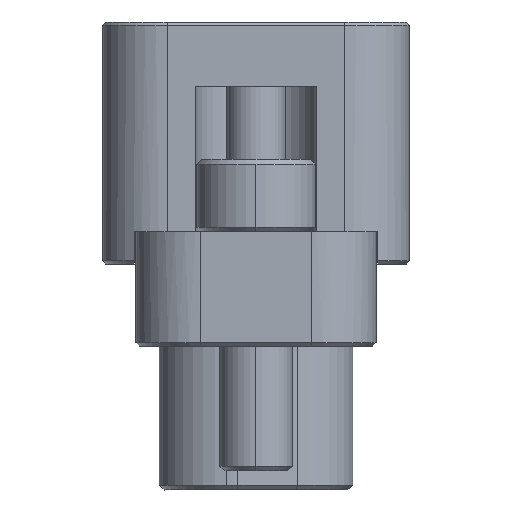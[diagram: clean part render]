
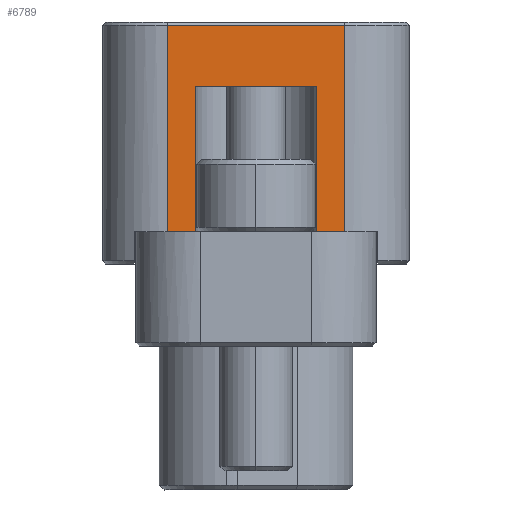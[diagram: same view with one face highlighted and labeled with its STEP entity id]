
A CAD part, left-side view. The second image highlights one B-rep face of the part: STEP entity #6789.
In plain terms, the highlighted planar face has unit normal (-1, 0, 0).
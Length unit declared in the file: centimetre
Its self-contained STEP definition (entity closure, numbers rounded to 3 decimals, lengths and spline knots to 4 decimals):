
#100 = LINE ( 'NONE', #6890, #103 ) ;
#103 = VECTOR ( 'NONE', #6884, 100. ) ;
#104 = LINE ( 'NONE', #6888, #109 ) ;
#106 = LINE ( 'NONE', #6889, #107 ) ;
#107 = VECTOR ( 'NONE', #6894, 100. ) ;
#109 = VECTOR ( 'NONE', #6895, 100. ) ;
#323 = EDGE_CURVE ( 'NONE', #5536, #5441, #100, .T. ) ;
#324 = EDGE_CURVE ( 'NONE', #5535, #5597, #106, .T. ) ;
#325 = EDGE_CURVE ( 'NONE', #5536, #5535, #104, .T. ) ;
#785 = CARTESIAN_POINT ( 'NONE',  ( -1.6065, 0.2388, 1.0211 ) ) ;
#796 = CARTESIAN_POINT ( 'NONE',  ( -1.6065, 0.3493, 0.4496 ) ) ;
#819 = CARTESIAN_POINT ( 'NONE',  ( -1.6065, 0.2388, 0.4496 ) ) ;
#867 = CARTESIAN_POINT ( 'NONE',  ( -1.6065, -0.3493, 1.2624 ) ) ;
#873 = CARTESIAN_POINT ( 'NONE',  ( -1.6065, 0.3492, 1.2624 ) ) ;
#888 = CARTESIAN_POINT ( 'NONE',  ( -1.6065, -0.2388, 1.0211 ) ) ;
#916 = CARTESIAN_POINT ( 'NONE',  ( -1.6065, -0.3493, 0.4496 ) ) ;
#937 = CARTESIAN_POINT ( 'NONE',  ( -1.6065, -0.2388, 0.4496 ) ) ;
#1309 = CARTESIAN_POINT ( 'NONE',  ( -1.6065, 0., 1.0211 ) ) ;
#1310 = CARTESIAN_POINT ( 'NONE',  ( -1.6065, 0.2388, 1.2751 ) ) ;
#1314 = DIRECTION ( 'NONE',  ( 0., 0., 1. ) ) ;
#1317 = DIRECTION ( 'NONE',  ( 0., -1., 0. ) ) ;
#1349 = LINE ( 'NONE', #1310, #1355 ) ;
#1352 = LINE ( 'NONE', #1309, #1359 ) ;
#1355 = VECTOR ( 'NONE', #1314, 100. ) ;
#1358 = LINE ( 'NONE', #1607, #1361 ) ;
#1359 = VECTOR ( 'NONE', #1317, 100. ) ;
#1361 = VECTOR ( 'NONE', #1608, 100. ) ;
#1495 = FACE_OUTER_BOUND ( 'NONE', #6197, .T. ) ;
#1607 = CARTESIAN_POINT ( 'NONE',  ( -1.6065, -0.2388, 1.2751 ) ) ;
#1608 = DIRECTION ( 'NONE',  ( 0., 0., -1. ) ) ;
#2045 = CARTESIAN_POINT ( 'NONE',  ( -1.6065, 0., 1.2751 ) ) ;
#2046 = PLANE ( 'NONE',  #2185 ) ;
#2063 = DIRECTION ( 'NONE',  ( -1., 0., 0. ) ) ;
#2064 = DIRECTION ( 'NONE',  ( 0., 0., 1. ) ) ;
#2185 = AXIS2_PLACEMENT_3D ( 'NONE', #2045, #2063, #2064 ) ;
#3705 = CARTESIAN_POINT ( 'NONE',  ( -1.6065, 0., 0.4496 ) ) ;
#3706 = DIRECTION ( 'NONE',  ( 0., -1., 0. ) ) ;
#3741 = DIRECTION ( 'NONE',  ( 0., -1., 0. ) ) ;
#3745 = CARTESIAN_POINT ( 'NONE',  ( -1.6065, 0., 0.4496 ) ) ;
#3899 = LINE ( 'NONE', #3705, #3902 ) ;
#3902 = VECTOR ( 'NONE', #3706, 100. ) ;
#3928 = LINE ( 'NONE', #3745, #3930 ) ;
#3930 = VECTOR ( 'NONE', #3741, 100. ) ;
#5435 = VERTEX_POINT ( 'NONE', #785 ) ;
#5441 = VERTEX_POINT ( 'NONE', #796 ) ;
#5469 = ORIENTED_EDGE ( 'NONE', *, *, #7133, .T. ) ;
#5473 = VERTEX_POINT ( 'NONE', #819 ) ;
#5501 = ORIENTED_EDGE ( 'NONE', *, *, #324, .F. ) ;
#5531 = ORIENTED_EDGE ( 'NONE', *, *, #5799, .T. ) ;
#5535 = VERTEX_POINT ( 'NONE', #867 ) ;
#5536 = VERTEX_POINT ( 'NONE', #873 ) ;
#5557 = VERTEX_POINT ( 'NONE', #888 ) ;
#5562 = ORIENTED_EDGE ( 'NONE', *, *, #5802, .T. ) ;
#5593 = ORIENTED_EDGE ( 'NONE', *, *, #325, .F. ) ;
#5597 = VERTEX_POINT ( 'NONE', #916 ) ;
#5620 = VERTEX_POINT ( 'NONE', #937 ) ;
#5626 = ORIENTED_EDGE ( 'NONE', *, *, #5801, .T. ) ;
#5628 = ORIENTED_EDGE ( 'NONE', *, *, #7115, .T. ) ;
#5692 = ORIENTED_EDGE ( 'NONE', *, *, #323, .T. ) ;
#5799 = EDGE_CURVE ( 'NONE', #5473, #5435, #1349, .T. ) ;
#5801 = EDGE_CURVE ( 'NONE', #5435, #5557, #1352, .T. ) ;
#5802 = EDGE_CURVE ( 'NONE', #5557, #5620, #1358, .T. ) ;
#6197 = EDGE_LOOP ( 'NONE', ( #5469, #5501, #5593, #5692, #5628, #5531, #5626, #5562 ) ) ;
#6789 = ADVANCED_FACE ( 'NONE', ( #1495 ), #2046, .T. ) ;
#6884 = DIRECTION ( 'NONE',  ( 0., 0., -1. ) ) ;
#6888 = CARTESIAN_POINT ( 'NONE',  ( -1.6065, 0., 1.2624 ) ) ;
#6889 = CARTESIAN_POINT ( 'NONE',  ( -1.6065, -0.3493, 1.2751 ) ) ;
#6890 = CARTESIAN_POINT ( 'NONE',  ( -1.6065, 0.3493, 1.2751 ) ) ;
#6894 = DIRECTION ( 'NONE',  ( 0., 0., -1. ) ) ;
#6895 = DIRECTION ( 'NONE',  ( 0., -1., 0. ) ) ;
#7115 = EDGE_CURVE ( 'NONE', #5441, #5473, #3899, .T. ) ;
#7133 = EDGE_CURVE ( 'NONE', #5620, #5597, #3928, .T. ) ;
